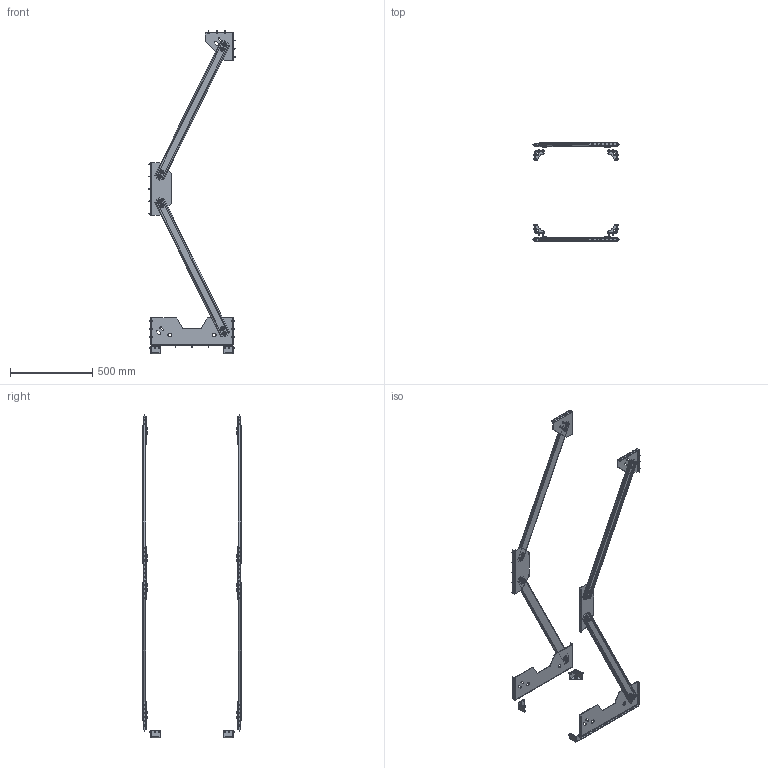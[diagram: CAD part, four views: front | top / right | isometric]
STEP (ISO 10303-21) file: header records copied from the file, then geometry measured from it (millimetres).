
FILE_DESCRIPTION(('STEP AP203'), '1');
FILE_NAME('3950.200.60 Ñåéñìîêîìïëåêò 2000õ600', '', ('UNSPECIFIED'), ('UNSPECIFIED'), 'C3D Converter', 'C3D Toolkit', '');
FILE_SCHEMA(('CONFIG_CONTROL_DESIGN'));
Length unit declared in the file: millimetre
Products named in the file (21): 3950.200.60 СБ; 3950.01; 3950.02; 3950.03.60; 3950.04; 3950.05.200.60
Assembly tree (154 placements, depth 2):
  3950.200.60 СБ
    3950.01  x2
    3950.02
    3950.03.60
    3950.04
    3950.05.200.60  x2
    (unnamed)  x16
    (unnamed)  x8
    (unnamed)  x8
    (unnamed)  x8
    (unnamed)  x38
    (unnamed)  x22
    (unnamed)  x8
    (unnamed)  x8
    (unnamed)  x8
    (unnamed)  x16
    3950.05.200.60  x2
    3950.04
    3950.03.60
    3950.02
    3950.01  x2
Bounding box: 522 x 598 x 1959.5 mm (x, y, z)
Volume: 2202213.5 mm3; surface area: 1555395.1 mm2
Topology: 154 solids, 154 shells, 2994 faces, 6990 edges, 4472 vertices
Faces by surface type: plane 1342, cylinder 580, cone 576, bspline 360, torus 136
Full cylindrical faces by diameter (mm): 4.8 x60, 6 x16, 6.5 x112, 6.647 x16, 8 x16, 9 x40, 14 x4, 22 x4, 24 x32
Entity records: 32870 total; most frequent: CARTESIAN_POINT 10635, DIRECTION 3998, ORIENTED_EDGE 3272, EDGE_CURVE 1636, AXIS2_PLACEMENT_3D 1577, EDGE_LOOP 1212, VERTEX_POINT 1120, FACE_BOUND 900
